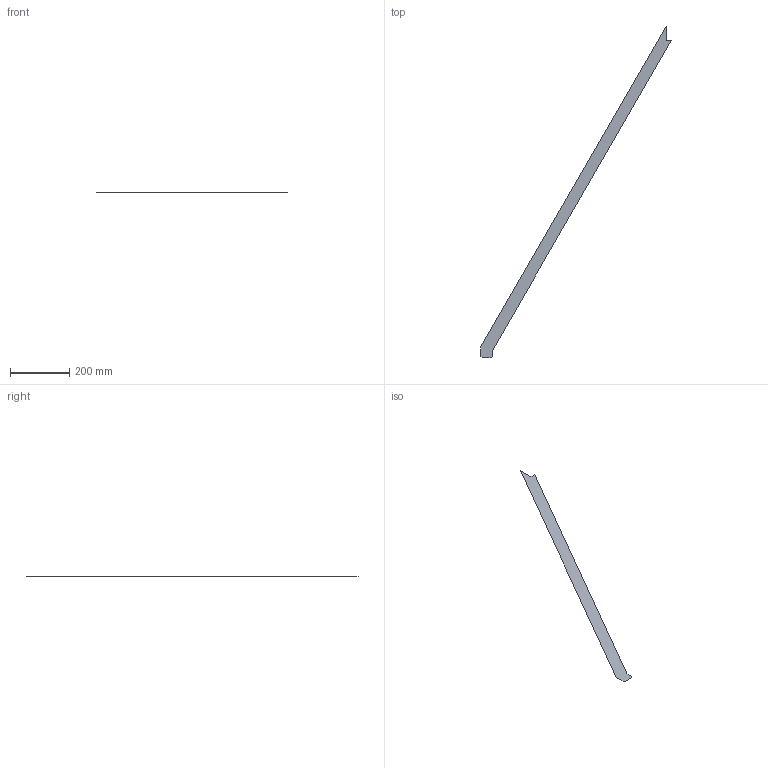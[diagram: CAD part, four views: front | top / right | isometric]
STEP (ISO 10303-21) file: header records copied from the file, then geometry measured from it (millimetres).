
FILE_DESCRIPTION(('FreeCAD Model'),'2;1');
FILE_NAME('D:/Users/Dfo15/OneDrive/Documents/stiffener2.step', '2018-10-14T01:16:10',('Author'),(''), 'Open CASCADE STEP processor 7.2','FreeCAD','Unknown');
FILE_SCHEMA(('AUTOMOTIVE_DESIGN { 1 0 10303 214 1 1 1 1 }'));
Length unit declared in the file: millimetre
Products named in the file (1): DWire007
Bounding box: 641.55 x 1118 x 0 mm (x, y, z)
Surface area: 49831.3 mm2 (no closed solid volume)
Topology: 0 solids, 1 shells, 1 faces, 9 edges, 9 vertices
Faces by surface type: plane 1
Entity records: 170 total; most frequent: CARTESIAN_POINT 29, DIRECTION 22, LINE 18, VECTOR 18, ORIENTED_EDGE 9, EDGE_CURVE 9, VERTEX_POINT 9, SURFACE_CURVE 9
